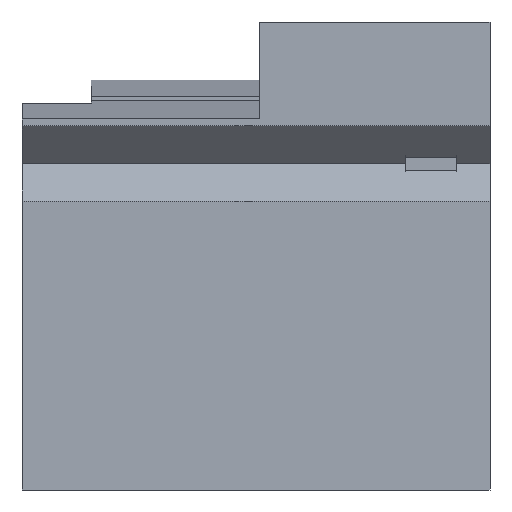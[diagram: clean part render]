
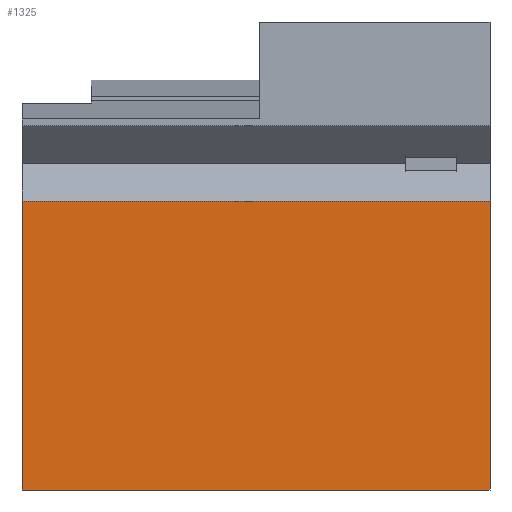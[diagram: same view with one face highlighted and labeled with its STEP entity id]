
A CAD part, left-side view. The second image highlights one B-rep face of the part: STEP entity #1325.
In plain terms, the highlighted planar face has unit normal (-1, 0, 0).
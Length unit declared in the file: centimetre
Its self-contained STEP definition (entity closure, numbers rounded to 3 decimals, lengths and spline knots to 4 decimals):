
#6 = EDGE_LOOP ( 'NONE', ( #1459, #1159, #54, #519 ) ) ;
#10 = LINE ( 'NONE', #482, #873 ) ;
#46 = CARTESIAN_POINT ( 'NONE',  ( 0., 0., 1000. ) ) ;
#54 = ORIENTED_EDGE ( 'NONE', *, *, #281, .T. ) ;
#66 = CARTESIAN_POINT ( 'NONE',  ( 0., 1000., 1000. ) ) ;
#110 = VERTEX_POINT ( 'NONE', #1454 ) ;
#122 = CARTESIAN_POINT ( 'NONE',  ( 0., 1000., 0. ) ) ;
#163 = VERTEX_POINT ( 'NONE', #1160 ) ;
#217 = DIRECTION ( 'NONE',  ( 0., -1., 0. ) ) ;
#281 = EDGE_CURVE ( 'NONE', #163, #1004, #607, .T. ) ;
#404 = CARTESIAN_POINT ( 'NONE',  ( 0., 1000., 1000. ) ) ;
#482 = CARTESIAN_POINT ( 'NONE',  ( 0., 0., 617.1481 ) ) ;
#512 = FACE_OUTER_BOUND ( 'NONE', #6, .T. ) ;
#519 = ORIENTED_EDGE ( 'NONE', *, *, #1433, .T. ) ;
#532 = DIRECTION ( 'NONE',  ( 0., 0., -1. ) ) ;
#563 = LINE ( 'NONE', #1145, #1254 ) ;
#607 = LINE ( 'NONE', #66, #1439 ) ;
#608 = LINE ( 'NONE', #46, #705 ) ;
#705 = VECTOR ( 'NONE', #1106, 100. ) ;
#750 = EDGE_CURVE ( 'NONE', #949, #110, #608, .T. ) ;
#871 = DIRECTION ( 'NONE',  ( 0., 0., -1. ) ) ;
#873 = VECTOR ( 'NONE', #955, 100. ) ;
#949 = VERTEX_POINT ( 'NONE', #1276 ) ;
#955 = DIRECTION ( 'NONE',  ( 0., 1., 0. ) ) ;
#988 = PLANE ( 'NONE',  #1426 ) ;
#1004 = VERTEX_POINT ( 'NONE', #122 ) ;
#1106 = DIRECTION ( 'NONE',  ( 0., 0., -1. ) ) ;
#1145 = CARTESIAN_POINT ( 'NONE',  ( 0., 1000., 0. ) ) ;
#1159 = ORIENTED_EDGE ( 'NONE', *, *, #1271, .T. ) ;
#1160 = CARTESIAN_POINT ( 'NONE',  ( 0., 1000., 617.1481 ) ) ;
#1254 = VECTOR ( 'NONE', #217, 100. ) ;
#1271 = EDGE_CURVE ( 'NONE', #949, #163, #10, .T. ) ;
#1276 = CARTESIAN_POINT ( 'NONE',  ( 0., 0., 617.1481 ) ) ;
#1325 = ADVANCED_FACE ( 'NONE', ( #512 ), #988, .F. ) ;
#1426 = AXIS2_PLACEMENT_3D ( 'NONE', #404, #1476, #532 ) ;
#1433 = EDGE_CURVE ( 'NONE', #1004, #110, #563, .T. ) ;
#1439 = VECTOR ( 'NONE', #871, 100. ) ;
#1454 = CARTESIAN_POINT ( 'NONE',  ( 0., 0., 0. ) ) ;
#1459 = ORIENTED_EDGE ( 'NONE', *, *, #750, .F. ) ;
#1476 = DIRECTION ( 'NONE',  ( 1., 0., 0. ) ) ;
